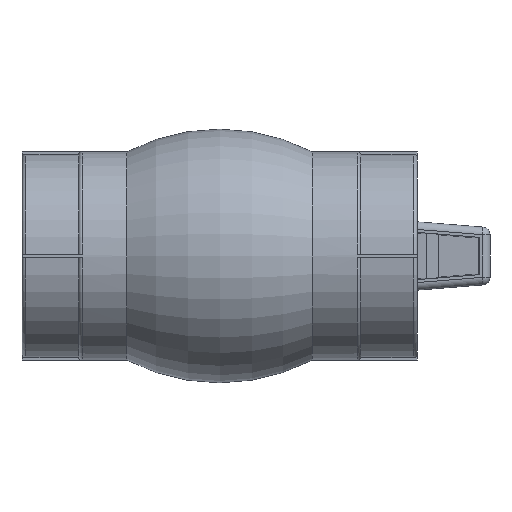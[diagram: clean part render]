
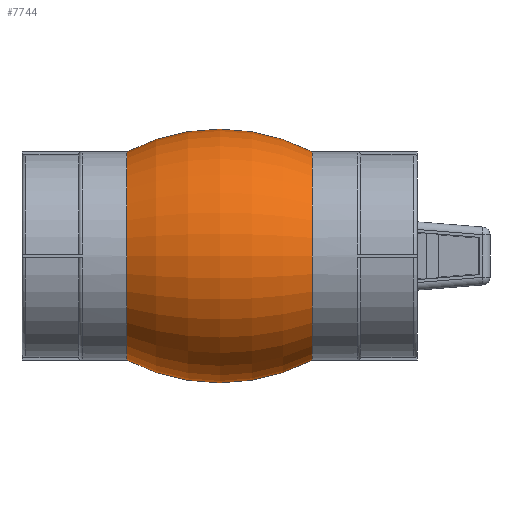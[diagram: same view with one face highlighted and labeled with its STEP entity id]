
A CAD part, front view. The second image highlights one B-rep face of the part: STEP entity #7744.
In plain terms, the highlighted toroidal (fillet/blend) face has major radius 19.329 mm and minor radius 52.604 mm.
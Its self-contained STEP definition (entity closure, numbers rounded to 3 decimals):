
#752 = VERTEX_POINT ( 'NONE', #1522 ) ;
#1453 = DIRECTION ( 'NONE',  ( 0., 0., -1. ) ) ;
#1522 = CARTESIAN_POINT ( 'NONE',  ( 24.35, 0., -27.3 ) ) ;
#1677 = VERTEX_POINT ( 'NONE', #7586 ) ;
#1882 = CIRCLE ( 'NONE', #5400, 52.604 ) ;
#2438 = CARTESIAN_POINT ( 'NONE',  ( -24.35, 0., 0. ) ) ;
#2439 = DIRECTION ( 'NONE',  ( 0., -1., 0. ) ) ;
#2999 = EDGE_CURVE ( 'NONE', #5039, #1677, #9088, .T. ) ;
#3241 = CARTESIAN_POINT ( 'NONE',  ( 24.35, 0., 0. ) ) ;
#5039 = VERTEX_POINT ( 'NONE', #12002 ) ;
#5286 = ORIENTED_EDGE ( 'NONE', *, *, #8993, .T. ) ;
#5400 = AXIS2_PLACEMENT_3D ( 'NONE', #8139, #2439, #7219 ) ;
#5654 = FACE_OUTER_BOUND ( 'NONE', #8528, .T. ) ;
#6591 = CARTESIAN_POINT ( 'NONE',  ( 0., 0., -19.329 ) ) ;
#7219 = DIRECTION ( 'NONE',  ( 0., 0., -1. ) ) ;
#7255 = CARTESIAN_POINT ( 'NONE',  ( -24.35, 0., -27.3 ) ) ;
#7349 = AXIS2_PLACEMENT_3D ( 'NONE', #7619, #8420, #11205 ) ;
#7544 = VERTEX_POINT ( 'NONE', #7255 ) ;
#7586 = CARTESIAN_POINT ( 'NONE',  ( 24.35, 0., 27.3 ) ) ;
#7619 = CARTESIAN_POINT ( 'NONE',  ( 0., 0., 0. ) ) ;
#7702 = AXIS2_PLACEMENT_3D ( 'NONE', #6591, #11108, #10361 ) ;
#7744 = ADVANCED_FACE ( 'NONE', ( #5654 ), #9924, .T. ) ;
#8139 = CARTESIAN_POINT ( 'NONE',  ( 0., 0., 19.329 ) ) ;
#8188 = ORIENTED_EDGE ( 'NONE', *, *, #2999, .F. ) ;
#8323 = EDGE_CURVE ( 'NONE', #7544, #752, #1882, .T. ) ;
#8420 = DIRECTION ( 'NONE',  ( 1., 0., 0. ) ) ;
#8528 = EDGE_LOOP ( 'NONE', ( #8188, #5286, #8531, #8602 ) ) ;
#8531 = ORIENTED_EDGE ( 'NONE', *, *, #8323, .T. ) ;
#8602 = ORIENTED_EDGE ( 'NONE', *, *, #9800, .F. ) ;
#8993 = EDGE_CURVE ( 'NONE', #5039, #7544, #9737, .T. ) ;
#9088 = CIRCLE ( 'NONE', #7702, 52.604 ) ;
#9737 = CIRCLE ( 'NONE', #12091, 27.3 ) ;
#9758 = CIRCLE ( 'NONE', #10352, 27.3 ) ;
#9800 = EDGE_CURVE ( 'NONE', #1677, #752, #9758, .T. ) ;
#9924 = TOROIDAL_SURFACE ( 'NONE', #7349, -19.329, 52.604 ) ;
#10352 = AXIS2_PLACEMENT_3D ( 'NONE', #3241, #11916, #10759 ) ;
#10361 = DIRECTION ( 'NONE',  ( 0., 0., 1. ) ) ;
#10759 = DIRECTION ( 'NONE',  ( 0., 0., -1. ) ) ;
#11108 = DIRECTION ( 'NONE',  ( 0., 1., 0. ) ) ;
#11205 = DIRECTION ( 'NONE',  ( 0., 0., -1. ) ) ;
#11716 = DIRECTION ( 'NONE',  ( 1., 0., 0. ) ) ;
#11916 = DIRECTION ( 'NONE',  ( 1., 0., 0. ) ) ;
#12002 = CARTESIAN_POINT ( 'NONE',  ( -24.35, 0., 27.3 ) ) ;
#12091 = AXIS2_PLACEMENT_3D ( 'NONE', #2438, #11716, #1453 ) ;
